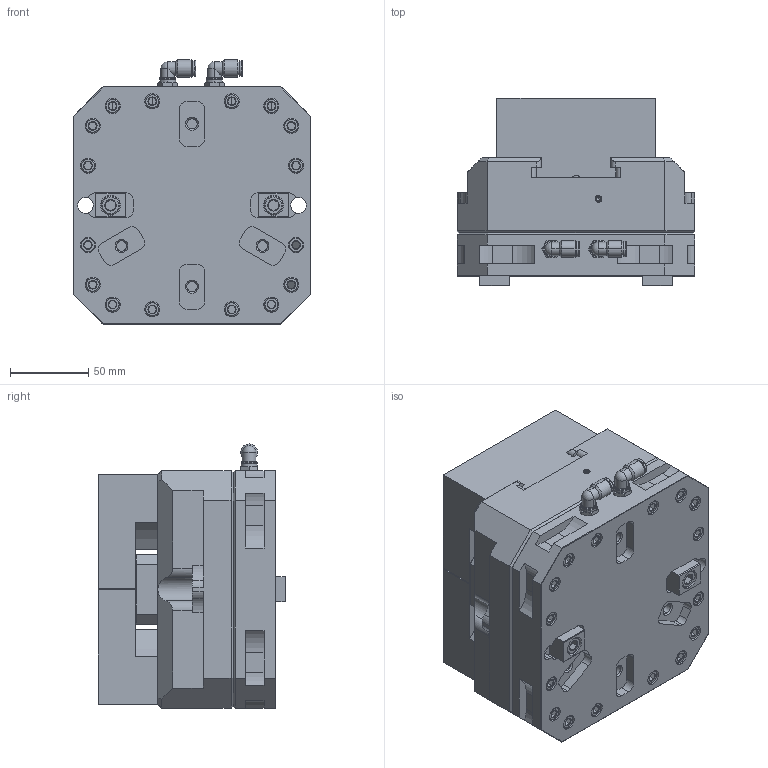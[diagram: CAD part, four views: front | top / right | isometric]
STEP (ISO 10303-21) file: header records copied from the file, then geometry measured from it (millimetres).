
FILE_DESCRIPTION (( 'STEP AP203' ), '1' );
FILE_NAME ('AV-T-4.STEP', '2018-09-27T17:06:21', ( '' ), ( '' ), 'SwSTEP 2.0', 'SolidWorks 2017', '' );
FILE_SCHEMA (( 'CONFIG_CONTROL_DESIGN' ));
Length unit declared in the file: inch
Products named in the file (1): AV-T-4
Bounding box: 151.89 x 120.04 x 168.91 mm (x, y, z)
Surface area: 149552.1 mm2 (no closed solid volume)
Topology: 0 solids, 33 shells, 711 faces, 1833 edges, 1157 vertices
Faces by surface type: plane 329, cone 214, cylinder 157, sphere 6, torus 4, bspline 1
Entity records: 22714 total; most frequent: CARTESIAN_POINT 5612, DIRECTION 3681, ORIENTED_EDGE 3222, EDGE_CURVE 1817, AXIS2_PLACEMENT_3D 1346, VERTEX_POINT 1149, LINE 989, VECTOR 989
